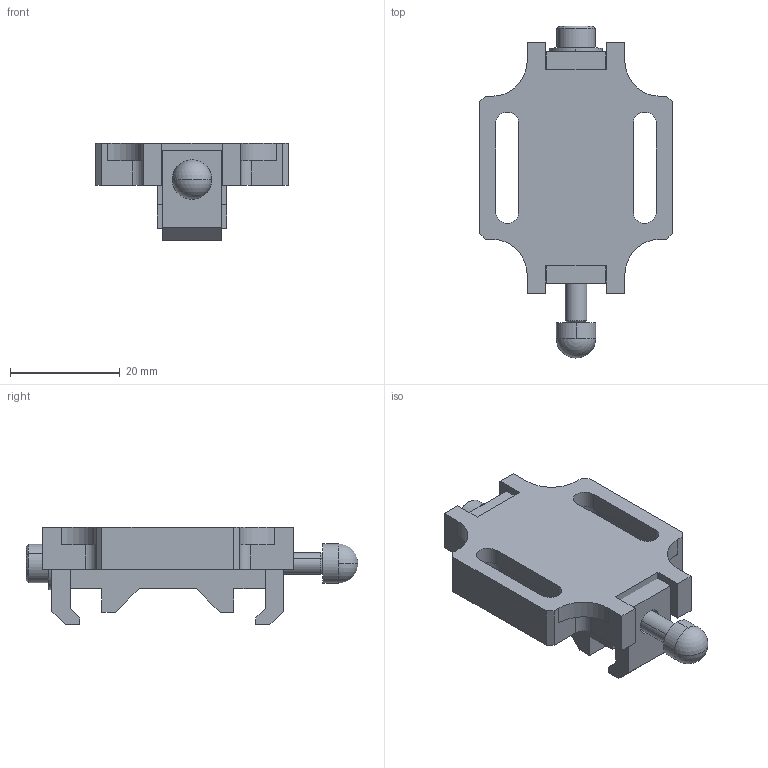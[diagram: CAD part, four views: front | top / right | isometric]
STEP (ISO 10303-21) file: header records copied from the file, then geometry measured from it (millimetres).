
FILE_DESCRIPTION (( 'STEP AP214' ), '1' );
FILE_NAME ('csk-a30_asm.STEP', '2022-06-25T08:11:26', ( '' ), ( '' ), 'SwSTEP 2.0', 'SolidWorks 2021', '' );
FILE_SCHEMA (( 'AUTOMOTIVE_DESIGN' ));
Length unit declared in the file: millimetre
Products named in the file (8): M4_CAP.STEP; SPACER_5X9_5X0_7.STEP; CSK-A30_A3.STEP; M4X50_HM.STEP; csk-a30_asm; CSK-A30_A1.STEP; csk-a30_asm.STEP; CSK-A30_A2.STEP
Assembly tree (7 placements, depth 3):
  csk-a30_asm
    csk-a30_asm.STEP
      CSK-A30_A1.STEP
      CSK-A30_A2.STEP
      CSK-A30_A3.STEP
      M4X50_HM.STEP
      SPACER_5X9_5X0_7.STEP
      M4_CAP.STEP
Bounding box: 35 x 60.38 x 17.81 mm (x, y, z)
Volume: 10570.3 mm3; surface area: 7548 mm2
Topology: 6 solids, 6 shells, 170 faces, 435 edges, 281 vertices
Faces by surface type: plane 96, cylinder 48, cone 14, bspline 6, torus 4, sphere 2
Entity records: 6216 total; most frequent: CARTESIAN_POINT 1753, DIRECTION 863, ORIENTED_EDGE 862, EDGE_CURVE 431, LINE 295, VECTOR 295, AXIS2_PLACEMENT_3D 284, VERTEX_POINT 281
